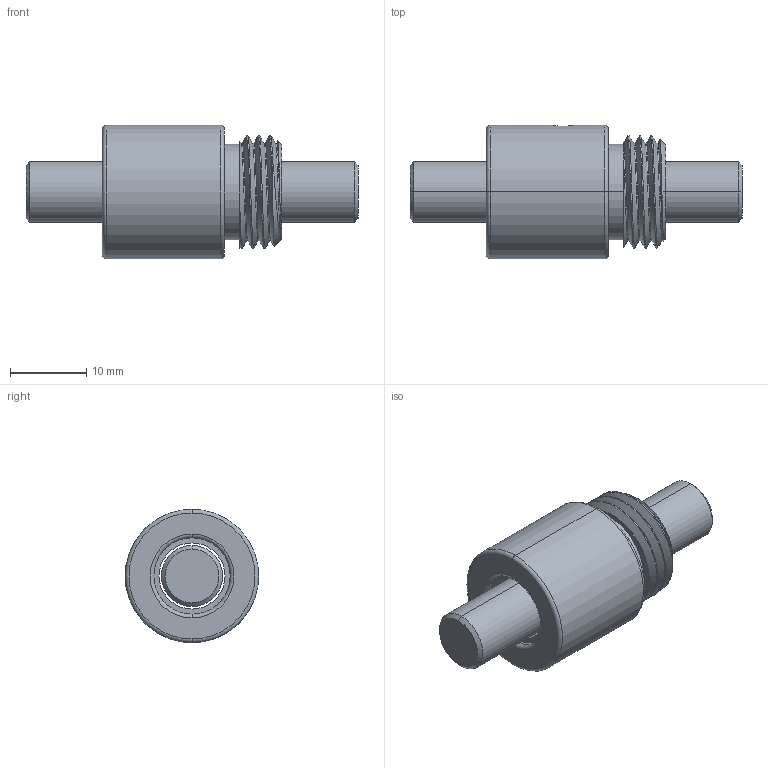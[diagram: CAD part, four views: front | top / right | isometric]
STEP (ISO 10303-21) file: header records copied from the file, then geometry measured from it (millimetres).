
FILE_DESCRIPTION (( 'STEP AP203' ), '1' );
FILE_NAME ('BSHR0082.5B1-C.STEP', '2020-06-17T06:56:06', ( '' ), ( '' ), 'SwSTEP 2.0', 'SolidWorks 2013', '' );
FILE_SCHEMA (( 'CONFIG_CONTROL_DESIGN' ));
Length unit declared in the file: millimetre
Products named in the file (1): BSHR0082.5B1-C
Bounding box: 43.5 x 17.5 x 17.5 mm (x, y, z)
Volume: 5638.1 mm3; surface area: 3562.8 mm2
Topology: 2 solids, 2 shells, 56 faces, 129 edges, 80 vertices
Faces by surface type: cylinder 29, plane 9, cone 8, torus 8, bspline 2
Entity records: 2223 total; most frequent: CARTESIAN_POINT 948, ORIENTED_EDGE 254, DIRECTION 252, EDGE_CURVE 127, AXIS2_PLACEMENT_3D 107, VERTEX_POINT 80, EDGE_LOOP 63, FACE_OUTER_BOUND 56
